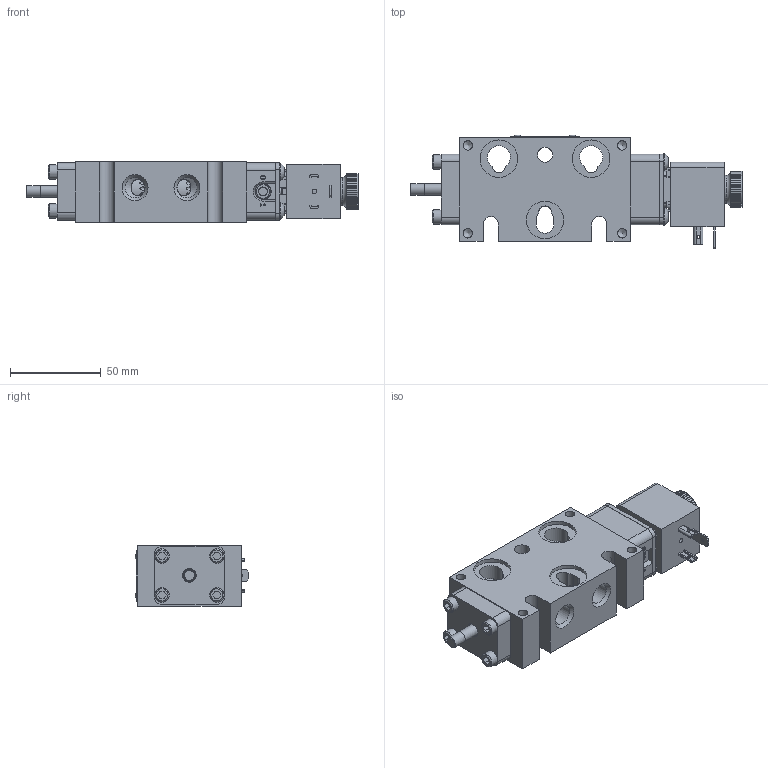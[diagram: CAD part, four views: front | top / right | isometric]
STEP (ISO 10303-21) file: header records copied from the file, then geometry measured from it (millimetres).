
FILE_DESCRIPTION(/* description */ (''),/* implementation_level */ '2;1');
FILE_NAME(/* name */ 'EBSO2HLKZ.stp',/* time_stamp */ '2026-08-02T07:26:18-04:00',/* author */ ('rmckenna'),/* organization */ (''),/* preprocessor_version */ 'ST-DEVELOPER v20.1',/* originating_system */ 'Autodesk Inventor 2026',/* authorisation */ '');
FILE_SCHEMA (('AUTOMOTIVE_DESIGN { 1 0 10303 214 3 1 1 }'));
Products named in the file (1): Part12
Bounding box: 182.79 x 62.7 x 33.32 mm (x, y, z)
Volume: 198285.2 mm3; surface area: 76676.9 mm2
Topology: 3 solids, 25 shells, 1497 faces, 3691 edges, 2362 vertices
Faces by surface type: plane 687, cylinder 429, cone 214, torus 113, bspline 48, sphere 6
Full cylindrical faces by diameter (mm): 1.3 x1, 1.397 x1, 1.5 x1, 1.651 x2, 2.032 x8, 2.07 x2, 2.261 x2, 2.35 x4, 2.5 x1, 2.778 x2, 2.8 x1, 2.819 x1, 3 x4, 3.048 x2, 3.175 x1, 3.4 x1, 3.683 x9, 4.191 x2, 4.826 x8, 4.953 x1, 5.105 x4, 5.15 x4, 5.156 x12, 5.5 x1, 6.35 x4, 6.553 x1, 7.315 x1, 7.671 x1, 7.938 x4, 8 x2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
Entity records: 53448 total; most frequent: CARTESIAN_POINT 16162, DIRECTION 7480, ORIENTED_EDGE 7352, EDGE_CURVE 3676, AXIS2_PLACEMENT_3D 2826, VERTEX_POINT 2360, LINE 1828, VECTOR 1828
